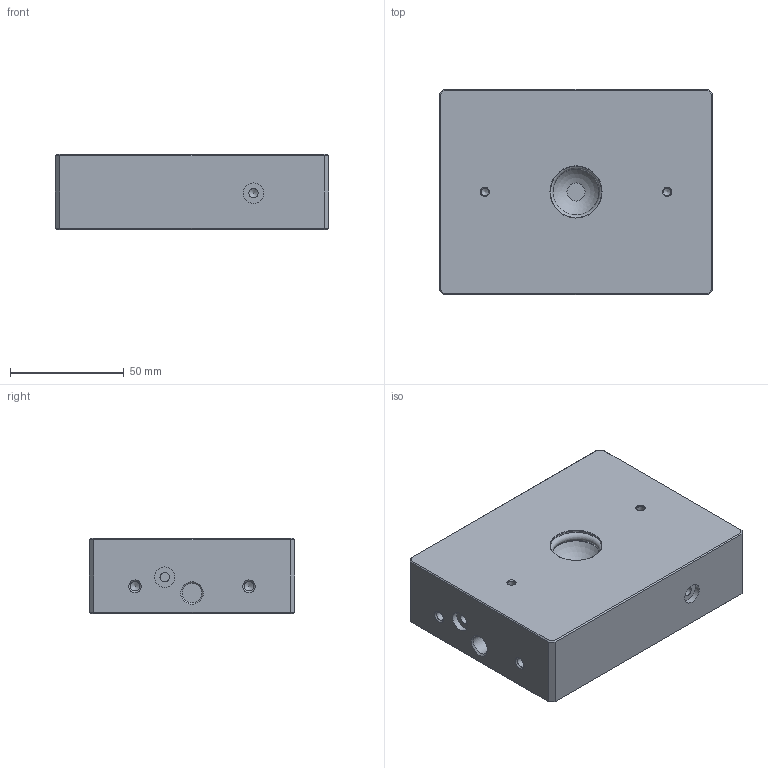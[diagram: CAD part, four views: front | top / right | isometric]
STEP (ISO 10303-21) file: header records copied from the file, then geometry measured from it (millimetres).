
FILE_DESCRIPTION(/* description */ (''),/* implementation_level */ '2;1');
FILE_NAME(/* name */ 'C:\VAULT\ARCHIVIO\MAGER\PATTINI\HRA\HRA-2010x\File Step Orazio\OK_WF10100H332T0_AIRPAD HRA-2010PTN 090x120x33.0.stp',/* time_stamp */ '2021-10-19T15:05:55+02:00',/* author */ ('Orazio.Farruggio'),/* organization */ (''),/* preprocessor_version */ 'ST-DEVELOPER v18.1',/* originating_system */ 'Autodesk Inventor 2022',/* authorisation */ '');
FILE_SCHEMA (('AUTOMOTIVE_DESIGN { 1 0 10303 214 3 1 1 }'));
Length unit declared in the file: millimetre
Products named in the file (1): WF10100H332T0_AIRPAD HRA-2010PT 090x120x33.0___Sostituto_1
Bounding box: 120 x 90 x 33 mm (x, y, z)
Volume: 346078.3 mm3; surface area: 61858.1 mm2
Topology: 3 solids, 3 shells, 89 faces, 185 edges, 113 vertices
Faces by surface type: plane 41, cone 23, cylinder 23, sphere 1, torus 1
Full cylindrical faces by diameter (mm): 3.242 x2, 4.134 x8, 8 x1, 8.566 x6, 9 x4, 22.5 x1, 27.4 x1
Entity records: 2470 total; most frequent: DIRECTION 420, CARTESIAN_POINT 378, ORIENTED_EDGE 350, EDGE_CURVE 175, AXIS2_PLACEMENT_3D 155, VERTEX_POINT 113, EDGE_LOOP 112, LINE 110
